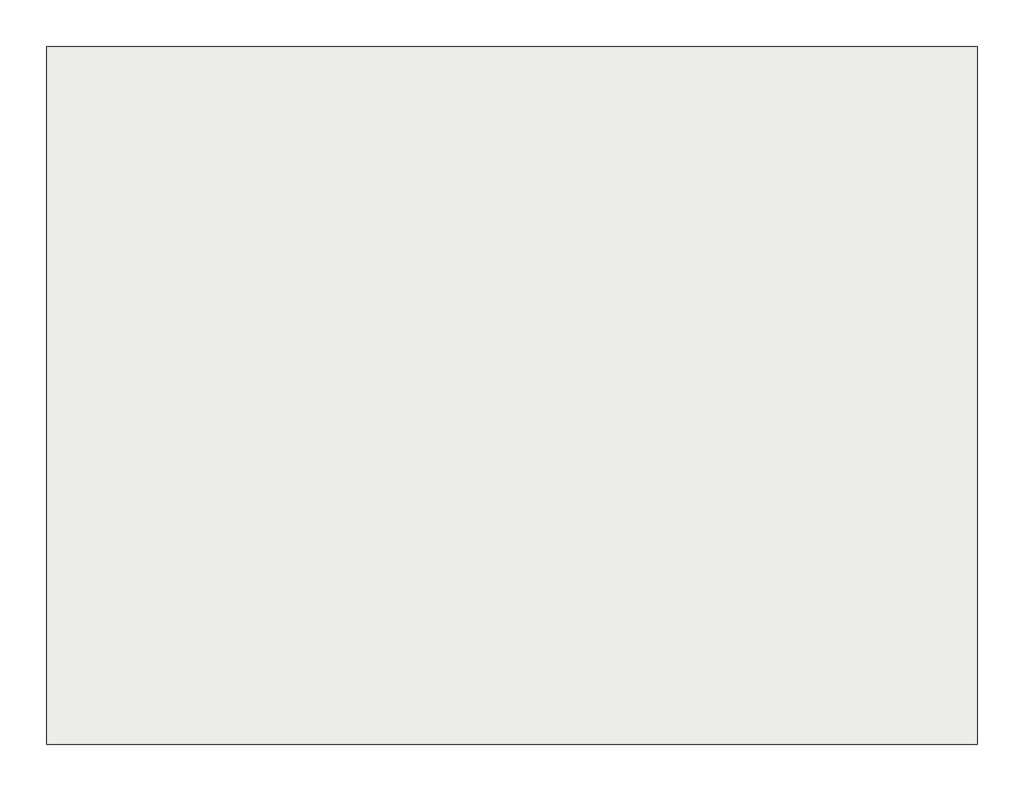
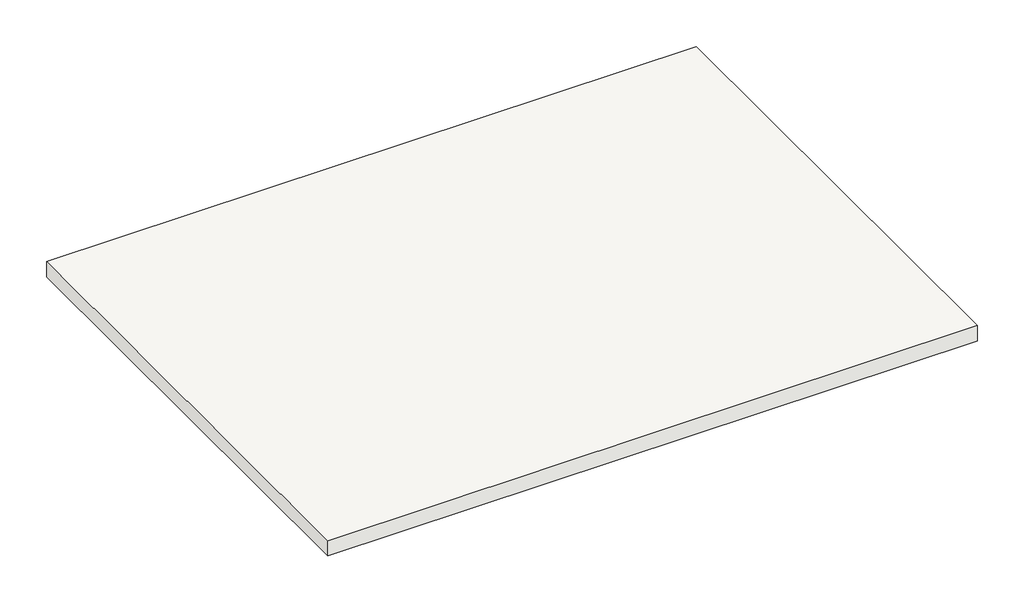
# One storey: 1 slab.
"""IFC4 building model written with IfcOpenShell, lengths in millimetres."""

import ifcopenshell
import ifcopenshell.guid

model = None  # the IFC model being written
_history = None  # IfcOwnerHistory: only IFC2X3 demands one
_inside = {}  # id of a spatial element -> (the spatial element, [elements in it])
_under = {}  # id of a project, library or spatial element -> (it, [spatial elements below it])
_declared = {}  # id of a project -> (the project, [libraries it declares])
_typed = {}  # id of a type object -> (the type object, [elements of that type])
_made_of = {}  # id of a material, layer set ... -> (it, [elements and type objects made of it])


def new_model(schema):
    """Start an empty IFC model of exactly this schema.

    Asked for "IFC4X3", IfcOpenShell would pick the latest addendum, in which some entities
    have other attributes; the version numbers below select the first issue.
    IFC2X3 requires an IfcOwnerHistory on every rooted entity: one is made here for all.
    """
    global model, _history
    if schema == "IFC4X3":
        model = ifcopenshell.file(schema_version=(4, 3, 0, 0))
    else:
        model = ifcopenshell.file(schema=schema)
    _inside.clear()
    _under.clear()
    _declared.clear()
    _typed.clear()
    _made_of.clear()
    _history = None
    if model.schema == "IFC2X3":
        org = make("IfcOrganization", Name="unknown")
        user = make(
            "IfcPersonAndOrganization",
            ThePerson=make("IfcPerson", FamilyName="unknown"),
            TheOrganization=org,
        )
        app = make(
            "IfcApplication",
            ApplicationDeveloper=org,
            Version="unknown",
            ApplicationFullName="unknown",
            ApplicationIdentifier="unknown",
        )
        _history = make(
            "IfcOwnerHistory",
            OwningUser=user,
            OwningApplication=app,
            ChangeAction="ADDED",
            CreationDate=0,
        )
    return model


def make(cls, **values):
    """One entity of the class cls with the attributes given. An attribute that is None is left unset."""
    return model.create_entity(
        cls, **{name: value for name, value in values.items() if value is not None}
    )


def rooted(cls, **values):
    """An entity with a GlobalId (a new one), such as an element, a storey or a relation."""
    return make(cls, GlobalId=ifcopenshell.guid.new(), OwnerHistory=_history, **values)


def si_unit(unit_type, name, prefix=None):
    """IfcSIUnit, for example si_unit("LENGTHUNIT", "METRE", prefix="MILLI")."""
    return make("IfcSIUnit", UnitType=unit_type, Prefix=prefix, Name=name)


def assignment(units):
    """IfcUnitAssignment: the units of a project."""
    return None if units is None else make("IfcUnitAssignment", Units=units)


def point(xyz):
    """IfcCartesianPoint."""
    return None if xyz is None else make("IfcCartesianPoint", Coordinates=xyz)


def direction(xyz):
    """IfcDirection."""
    return None if xyz is None else make("IfcDirection", DirectionRatios=xyz)


def frame(location, z_axis=None, x_axis=None):
    """IfcAxis2Placement3D, a coordinate frame: its origin and axes. An axis left out is left unset."""
    return make(
        "IfcAxis2Placement3D",
        Location=point(location),
        Axis=direction(z_axis),
        RefDirection=direction(x_axis),
    )


def origin():
    """The frame at (0, 0, 0) with its axes left unset."""
    return frame((0.0, 0.0, 0.0))


def place(relative_to, where):
    """IfcLocalPlacement: puts the frame where relative to a parent placement (None: the world)."""
    return make(
        "IfcLocalPlacement", PlacementRelTo=relative_to, RelativePlacement=where
    )


def context(
    kind, dimensions, precision=None, world=None, true_north=None, identifier=None
):
    """IfcGeometricRepresentationContext, for example the 3D "Model" context."""
    return make(
        "IfcGeometricRepresentationContext",
        ContextIdentifier=identifier,
        ContextType=kind,
        CoordinateSpaceDimension=dimensions,
        Precision=precision,
        WorldCoordinateSystem=world,
        TrueNorth=true_north,
    )


def project(units=None, contexts=None):
    """IfcProject with its units and contexts."""
    return rooted(
        "IfcProject",
        Name="project",
        RepresentationContexts=contexts,
        UnitsInContext=assignment(units),
    )


def spatial(cls, under=None, at=None, **own):
    """A site, building, storey or space (cls), placed at a placement, below another one or the project."""
    s = rooted(cls, ObjectPlacement=at, **own)
    if under is not None:
        _under.setdefault(under.id(), (under, []))[1].append(s)
    return s


def polyline(points):
    """IfcPolyline through the points."""
    return make("IfcPolyline", Points=[point(p) for p in points])


def outline(outer, holes=None, kind="AREA"):
    """IfcArbitraryClosedProfileDef: a profile drawn as a closed curve; with holes, ...WithVoids."""
    if holes is None:
        return make("IfcArbitraryClosedProfileDef", ProfileType=kind, OuterCurve=outer)
    return make(
        "IfcArbitraryProfileDefWithVoids",
        ProfileType=kind,
        OuterCurve=outer,
        InnerCurves=holes,
    )


def extrude(swept, where, along, depth):
    """IfcExtrudedAreaSolid: the profile swept, set in the frame where, extruded along a direction by depth."""
    return make(
        "IfcExtrudedAreaSolid",
        SweptArea=swept,
        Position=where,
        ExtrudedDirection=direction(along),
        Depth=depth,
    )


def shape(context_of_items, identifier, shape_type, items):
    """IfcShapeRepresentation: the items that make up one representation, for example the "Body"."""
    return make(
        "IfcShapeRepresentation",
        ContextOfItems=context_of_items,
        RepresentationIdentifier=identifier,
        RepresentationType=shape_type,
        Items=items,
    )


def made_of(thing, what):
    """Note that an element or type object is made of a material, layer set ...; save() writes the relation."""
    if what is not None:
        _made_of.setdefault(what.id(), (what, []))[1].append(thing)
    return thing


def element(
    cls,
    number,
    at=None,
    inside=None,
    cuts=None,
    type_object=None,
    material=None,
    context=None,
    identifier="Body",
    shape_type=None,
    held_by="IfcProductDefinitionShape",
    body=None,
    shapes=None,
    **own,
):
    """One element of the class cls, such as IfcWall. Its Tag is "e" and its number.

    at: its placement. inside: the storey or other place that contains it. cuts: it is an
    opening in that element (IfcRelVoidsElement). A single representation is given by context,
    identifier, shape_type and body (its items); several are given by shapes. held_by: the class
    of the entity that holds the representations. save() writes the other relations.
    """
    e = rooted(cls, Tag="e%d" % number, ObjectPlacement=at, **own)
    if body is not None:
        shapes = [shape(context, identifier, shape_type, body)]
    if shapes is not None:
        e.Representation = make(held_by, Representations=shapes)
    if inside is not None:
        _inside.setdefault(inside.id(), (inside, []))[1].append(e)
    if cuts is not None:
        rooted(
            "IfcRelVoidsElement", RelatingBuildingElement=cuts, RelatedOpeningElement=e
        )
    if type_object is not None:
        _typed.setdefault(type_object.id(), (type_object, []))[1].append(e)
    return made_of(e, material)


def aggregate(whole, parts):
    """IfcRelAggregates: a whole, such as a stair, and the parts it consists of."""
    return rooted("IfcRelAggregates", RelatingObject=whole, RelatedObjects=parts)


def save(model, path):
    """Write the relations noted so far, then the file.

    IfcRelAggregates (storeys below a building ...), IfcRelContainedInSpatialStructure (elements
    in a storey), IfcRelDefinesByType, IfcRelAssociatesMaterial and IfcRelDeclares: one each for
    every whole, place, type object, material and project.
    """
    for whole, parts in _under.values():
        aggregate(whole, parts)
    for where, things in _inside.values():
        rooted(
            "IfcRelContainedInSpatialStructure",
            RelatedElements=things,
            RelatingStructure=where,
        )
    for kind, things in _typed.values():
        rooted("IfcRelDefinesByType", RelatedObjects=things, RelatingType=kind)
    for what, things in _made_of.values():
        rooted("IfcRelAssociatesMaterial", RelatedObjects=things, RelatingMaterial=what)
    for by, libraries in _declared.values():
        rooted("IfcRelDeclares", RelatingContext=by, RelatedDefinitions=libraries)
    model.write(path)


model = new_model("IFC4")

# Units and contexts
model_context = context("Model", 3, world=origin())
ifc_project = project(units=[si_unit("LENGTHUNIT", "METRE", prefix="MILLI")], contexts=[model_context])

# Site, building, storey
site = spatial("IfcSite", under=ifc_project)
building = spatial("IfcBuilding", under=site)
storey = spatial("IfcBuildingStorey", under=building, Name="标高 2", Elevation=3000.0)

# Slab
placement = place(None, origin())
element("IfcSlab", 1, ObjectType="150mm", at=placement, inside=storey, context=model_context, shape_type="SweptSolid", body=[
    extrude(outline(polyline([(4496.9576384, 4626.3910315), (4496.9576384, 126.3910315), (-1503.0423616, 126.3910315), (-1503.0423616, 4626.3910315), (4496.9576384, 4626.3910315)])), frame((0.0, 0.0, 2850.0), z_axis=(0.0, 0.0, 1.0), x_axis=(1.0, 0.0, 0.0)), (0.0, 0.0, 1.0), 150.0),
])

save(model, "model.ifc")
